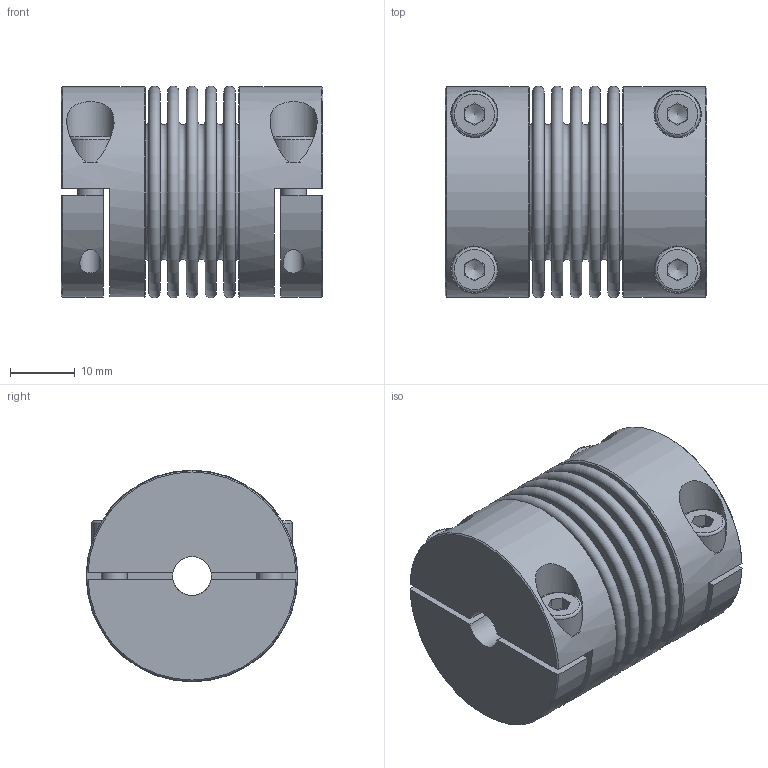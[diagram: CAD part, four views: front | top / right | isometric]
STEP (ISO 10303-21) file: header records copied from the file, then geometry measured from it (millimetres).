
FILE_DESCRIPTION( ( 'Unknown' ), '1' );
FILE_NAME( 'K:/Konstruktion/KB2H/KB2H-45-41.stp', 'Unknown', ( 'Unknown' ), ( 'Unknown' ), 'PSStep 16.0.42', 'Unknown', ' ' );
FILE_SCHEMA( ( 'AUTOMOTIVE_DESIGN { 1 0 10303 214 1 1 1 1 }' ) );
Length unit declared in the file: millimetre
Products named in the file (5): Assem1; KNH-45; BK45_Standard_0; Socket Head Cap Screw_DIN_DIN 912 M4 x 12 --- 12N_2
Assembly tree (9 placements, depth 2):
  Assem1
    KNH-45  x2
    KNH-45  x2
    BK45_Standard_0
    Socket Head Cap Screw_DIN_DIN 912 M4 x 12 --- 12N_2  x4
Bounding box: 40.35 x 32.67 x 32.67 mm (x, y, z)
Volume: 21310.4 mm3; surface area: 24572.6 mm2
Topology: 9 solids, 9 shells, 188 faces, 380 edges, 240 vertices
Faces by surface type: plane 108, torus 34, cylinder 32, cone 14
Full cylindrical faces by diameter (mm): 3.242 x4, 4 x4, 4.2 x4, 6 x2, 7 x4, 28.2 x2, 28.8 x2, 32.5 x2
Entity records: 3500 total; most frequent: CARTESIAN_POINT 624, DIRECTION 444, ORIENTED_EDGE 280, AXIS2_PLACEMENT_3D 201, EDGE_LOOP 182, FACE_OUTER_BOUND 141, EDGE_CURVE 140, VERTEX_POINT 127
